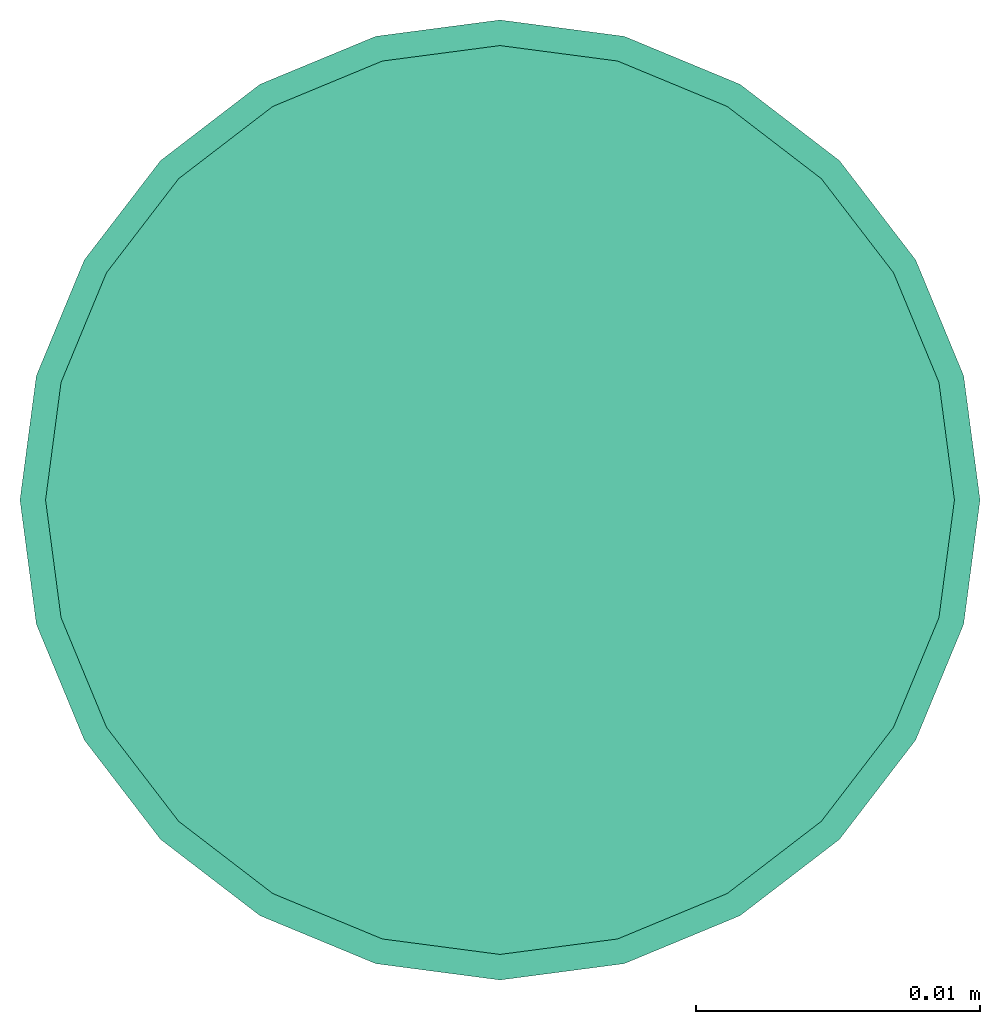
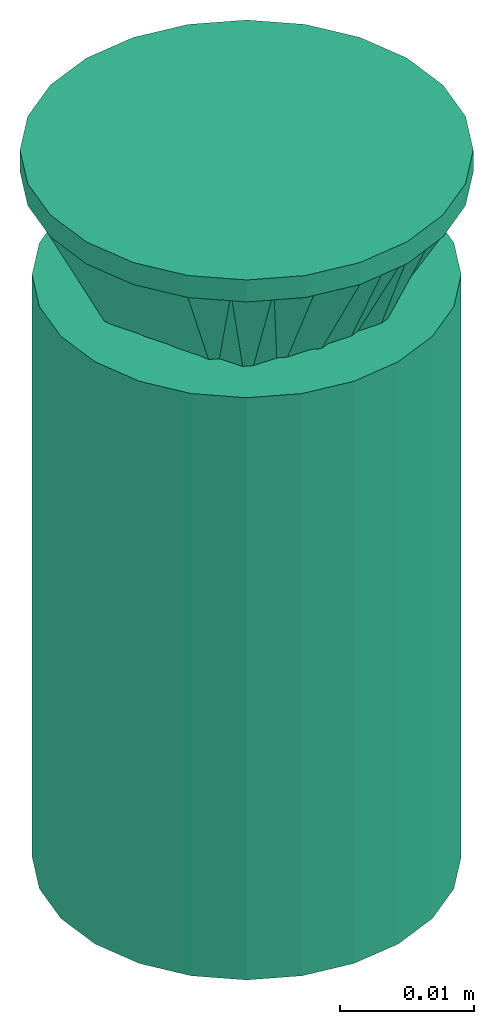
# One storey: 1 flow fitting, 1 flow terminal.
"""IFC2X3 building model written with IfcOpenShell, lengths in millimetres."""

from ifc_helpers import new_model, entity, si_unit, converted_unit, derived_unit, direction, frame, origin_with_axes, place, context, subcontext, project, spatial, open_shell, surface_model, source, transform, mapped, type_object, element, save


model = new_model("IFC2X3")

# Units and contexts
model_context = context("Model", 3, precision=0.01, world=frame((0.0, 4.29681676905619e-09, 0.0)), true_north=direction((4.01073788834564e-13, 1.0)))
plan_context = context("Plan", 3, precision=0.01, world=frame((0.0, 4.29681676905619e-09, 0.0)), true_north=direction((4.01073788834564e-13, 1.0)))
body_context = subcontext(model_context, "Body", "Model", "MODEL_VIEW")
ifc_project = project(units=[converted_unit("PLANEANGLEUNIT", "DEGREE", entity("IfcPositiveLengthMeasure", 0.0174532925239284), si_unit("PLANEANGLEUNIT", "RADIAN"), dimensions=[0, 0, 0, 0, 0, 0, 0]), si_unit("AREAUNIT", "SQUARE_METRE"), si_unit("LENGTHUNIT", "METRE", prefix="MILLI"), si_unit("MASSUNIT", "GRAM", prefix="KILO"), si_unit("POWERUNIT", "WATT"), si_unit("PRESSUREUNIT", "PASCAL", prefix="KILO"), si_unit("FORCEUNIT", "NEWTON", prefix="KILO"), si_unit("ELECTRICVOLTAGEUNIT", "VOLT"), si_unit("ELECTRICCURRENTUNIT", "AMPERE"), si_unit("THERMODYNAMICTEMPERATUREUNIT", "DEGREE_CELSIUS"), si_unit("TIMEUNIT", "SECOND"), si_unit("VOLUMEUNIT", "CUBIC_METRE"), derived_unit("LINEARVELOCITYUNIT", [(si_unit("LENGTHUNIT", "METRE"), 1), (si_unit("TIMEUNIT", "SECOND"), -1)]), derived_unit("VOLUMETRICFLOWRATEUNIT", [(si_unit("VOLUMEUNIT", "CUBIC_METRE"), 1), (si_unit("TIMEUNIT", "SECOND"), -1)]), derived_unit("THERMALTRANSMITTANCEUNIT", [(si_unit("POWERUNIT", "WATT"), 1), (si_unit("THERMODYNAMICTEMPERATUREUNIT", "KELVIN"), -1), (si_unit("AREAUNIT", "SQUARE_METRE"), -1)]), derived_unit("SOUNDPRESSUREUNIT", [(si_unit("PRESSUREUNIT", "PASCAL"), 1)])], contexts=[model_context, plan_context])

# Site, building, storey
site_placement = place(None, frame((0.0, -4.29681676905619e-09, 0.0), z_axis=(0.0, 0.0, 1.0), x_axis=(1.0, 0.0, 0.0)))
site = spatial("IfcSite", under=ifc_project, at=site_placement, CompositionType="ELEMENT")
building_placement = place(site_placement, frame((0.0, 4.29681676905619e-09, 0.0), z_axis=(0.0, 0.0, 1.0), x_axis=(1.0, 0.0, 0.0)))
building = spatial("IfcBuilding", under=site, at=building_placement, Name="mc-building", CompositionType="ELEMENT")
storey_placement = place(building_placement, frame((0.0, 0.0, 210200.0), z_axis=(0.0, 0.0, 1.0), x_axis=(1.0, 0.0, 0.0)))
storey = spatial("IfcBuildingStorey", under=building, at=storey_placement, Name="Nivå F - 0,7 m", CompositionType="ELEMENT", Elevation=210200.0)

# Flow fitting
pipe_fitting_type = type_object("IfcPipeFittingType", Name="magi_pipe_fe_reducer_centric_short_NOR", PredefinedType="TRANSITION")
shared_shape_1 = source(origin_with_axes(), body_context, "Body", "SurfaceModel", [
    surface_model("IfcShellBasedSurfaceModel", [(-2.0, -7.56604, -7.56604), (-2.0, -10.33541, -2.76936), (-2.0, -5.35, -9.26647), (-2.0, 5.35, -9.26647), (-2.0, 10.33541, -2.76936), (-2.0, 7.56604, -7.56604), (12.4, 11.9501, 11.9501), (12.4, 0.0, 16.9), (12.4, 11.9501, -11.9501), (12.4, 16.9, 0.0), (0.0, -10.7, 0.0), (0.0, -5.35, 9.26647), (0.0, -5.35, -9.26647), (0.0, 10.7, 0.0), (12.4, 15.66253, -2.98753), (12.4, 8.96258, -13.18758), (0.0, 6.6875, -6.94985), (12.4, -15.66253, -2.98753), (12.4, -16.9, 0.0), (12.4, 5.97505, -14.42505), (0.0, 5.35, -9.26647), (12.4, 14.42505, -5.97505), (0.0, 8.025, -4.63324), (0.0, 9.3625, -2.31662), (0.0, -9.3625, -2.31662), (0.0, -8.025, -4.63324), (12.4, -14.42505, -5.97505), (12.4, 13.18758, -8.96258), (12.4, -13.18758, -8.96258), (12.4, -11.9501, -11.9501), (0.0, -6.6875, -6.94985), (12.4, -8.96258, -13.18758), (12.4, -5.97505, -14.42505), (12.4, -15.66253, 2.98753), (12.4, -8.96258, 13.18758), (0.0, -6.6875, 6.94985), (12.4, -11.9501, 11.9501), (12.4, 15.66253, 2.98753), (12.4, -5.97505, 14.42505), (12.4, -14.42505, 5.97505), (0.0, -8.025, 4.63324), (0.0, -9.3625, 2.31662), (0.0, 9.3625, 2.31662), (0.0, 8.025, 4.63324), (12.4, 14.42505, 5.97505), (12.4, -13.18758, 8.96258), (12.4, 13.18758, 8.96258), (0.0, 6.6875, 6.94985), (12.4, 8.96258, 13.18758), (0.0, 5.35, 9.26647), (12.4, 5.97505, 14.42505), (14.4, 4.37404, -16.32415), (14.4, 8.45, -14.63583), (14.4, 11.9501, -11.9501), (14.4, -8.45, -14.63583), (14.4, 16.32415, -4.37404), (14.4, 16.32415, 4.37404), (14.4, 14.63583, -8.45), (14.4, 0.0, -16.9), (14.4, -4.37404, -16.32415), (14.4, -11.9501, -11.9501), (14.4, -16.32415, -4.37404), (14.4, -14.63583, -8.45), (14.4, -16.32415, 4.37404), (14.4, 16.9, 0.0), (14.4, 14.63583, 8.45), (14.4, 11.9501, 11.9501), (14.4, 4.37404, 16.32415), (14.4, 8.45, 14.63583), (14.4, 0.0, 16.9), (14.4, -14.63583, 8.45), (14.4, -16.9, 0.0), (14.4, -8.45, 14.63583), (14.4, -11.9501, 11.9501), (14.4, -4.37404, 16.32415), (12.4, 4.37404, 16.32415), (12.4, -14.63583, 8.45), (12.4, 16.32415, 4.37404), (12.4, 8.45, 14.63583), (12.4, 14.63583, 8.45), (12.4, -8.45, 14.63583), (12.4, -4.37404, 16.32415), (12.4, -16.32415, 4.37404), (12.4, -16.32415, -4.37404), (12.4, -8.45, -14.63583), (12.4, 16.32415, -4.37404), (12.4, 14.63583, -8.45), (12.4, 8.45, -14.63583), (12.4, 4.37404, -16.32415), (12.4, 0.0, -16.9), (12.4, -14.63583, -8.45), (12.4, -4.37404, -16.32415), (-2.0, 2.76936, 10.33541), (-2.0, 0.0, 10.7), (-2.0, 5.35, 9.26647), (-2.0, 7.56604, 7.56604), (-2.0, 9.26647, 5.35), (-2.0, 10.33541, 2.76936), (-2.0, -10.33541, 2.76936), (-2.0, -2.76936, 10.33541), (-2.0, -7.56604, 7.56604), (-2.0, -5.35, 9.26647), (-2.0, -9.26647, 5.35), (-2.0, -10.7, 0.0), (-2.0, 9.26647, -5.35), (-2.0, 2.76936, -10.33541), (-2.0, -9.26647, -5.35), (-2.0, 0.0, -10.7), (-2.0, -2.76936, -10.33541), (-2.0, 10.7, 0.0), (0.0, 0.0, -10.7), (0.0, 2.76936, -10.33541), (0.0, 10.33541, -2.76936), (0.0, 7.56604, -7.56604), (0.0, -10.33541, -2.76936), (0.0, 9.26647, -5.35), (0.0, 0.0, 10.7), (0.0, -2.76936, -10.33541), (0.0, -7.56604, -7.56604), (0.0, -9.26647, -5.35), (0.0, 10.33541, 2.76936), (0.0, 9.26647, 5.35), (0.0, 7.56604, 7.56604), (0.0, 2.76936, 10.33541), (0.0, -7.56604, 7.56604), (0.0, -10.33541, 2.76936), (0.0, -9.26647, 5.35), (0.0, -2.76936, 10.33541), (0.0, 2.675, -9.26647), (0.0, -2.675, -9.26647), (12.4, 2.98753, -15.66253), (0.0, 0.0, -9.26647), (12.4, -2.98753, -15.66253), (0.0, -2.675, 9.26647), (0.0, 2.675, 9.26647), (12.4, -2.98753, 15.66253), (0.0, 0.0, 9.26647), (12.4, 2.98753, 15.66253)], [open_shell([[[0, 1, 2]], [[3, 4, 5]], [[6, 7, 8]], [[8, 9, 6]], [[10, 11, 12]], [[13, 9, 14]], [[15, 16, 8]], [[17, 18, 10]], [[15, 19, 20]], [[21, 22, 23]], [[24, 25, 26]], [[22, 21, 27]], [[28, 26, 25]], [[29, 30, 31]], [[12, 32, 31]], [[10, 18, 33]], [[34, 35, 36]], [[37, 9, 13]], [[34, 38, 11]], [[39, 40, 41]], [[42, 43, 44]], [[40, 39, 45]], [[46, 44, 43]], [[6, 47, 48]], [[49, 50, 48]], [[51, 52, 53]], [[54, 51, 53]], [[53, 55, 56]], [[55, 53, 57]], [[53, 56, 54]], [[58, 54, 59]], [[58, 51, 54]], [[60, 61, 62]], [[61, 60, 54]], [[54, 63, 61]], [[56, 55, 64]], [[56, 65, 66]], [[56, 66, 67]], [[67, 63, 54]], [[67, 66, 68]], [[63, 67, 69]], [[69, 70, 63]], [[71, 61, 63]], [[70, 72, 73]], [[70, 69, 72]], [[72, 69, 74]], [[54, 56, 67]], [[75, 76, 7]], [[77, 75, 78]], [[6, 79, 77]], [[6, 77, 78]], [[76, 75, 77]], [[80, 76, 36]], [[80, 81, 7]], [[7, 76, 80]], [[82, 76, 77]], [[82, 83, 18]], [[82, 77, 84]], [[77, 85, 8]], [[8, 85, 86]], [[8, 87, 88]], [[84, 77, 8]], [[88, 89, 8]], [[83, 29, 90]], [[29, 83, 84]], [[84, 89, 91]], [[83, 82, 84]], [[8, 89, 84]], [[85, 77, 9]], [[83, 61, 18]], [[90, 62, 83]], [[54, 29, 84]], [[90, 29, 60]], [[59, 84, 91]], [[83, 62, 61]], [[61, 71, 18]], [[59, 54, 84]], [[60, 29, 54]], [[60, 62, 90]], [[58, 59, 91]], [[91, 89, 58]], [[88, 51, 89]], [[87, 52, 88]], [[57, 8, 86]], [[87, 8, 53]], [[55, 86, 85]], [[87, 53, 52]], [[52, 51, 88]], [[64, 55, 85]], [[57, 86, 55]], [[57, 53, 8]], [[9, 64, 85]], [[89, 51, 58]], [[77, 56, 9]], [[79, 65, 77]], [[68, 6, 78]], [[79, 6, 66]], [[67, 78, 75]], [[77, 65, 56]], [[56, 64, 9]], [[67, 68, 78]], [[66, 6, 68]], [[66, 65, 79]], [[69, 67, 75]], [[75, 7, 69]], [[81, 74, 7]], [[80, 72, 81]], [[70, 36, 76]], [[80, 36, 73]], [[63, 76, 82]], [[80, 73, 72]], [[72, 74, 81]], [[71, 63, 82]], [[70, 76, 63]], [[70, 73, 36]], [[18, 71, 82]], [[7, 74, 69]], [[92, 1, 93]], [[94, 1, 92]], [[95, 96, 97]], [[95, 97, 94]], [[98, 93, 1]], [[99, 100, 101]], [[99, 93, 100]], [[100, 98, 102]], [[93, 98, 100]], [[98, 1, 103]], [[94, 97, 1]], [[1, 97, 4]], [[5, 4, 104]], [[4, 3, 1]], [[105, 1, 3]], [[1, 0, 106]], [[2, 107, 108]], [[2, 1, 105]], [[105, 107, 2]], [[4, 97, 109]], [[20, 110, 111]], [[112, 20, 113]], [[114, 20, 112]], [[112, 113, 115]], [[116, 114, 112]], [[110, 12, 117]], [[110, 20, 12]], [[118, 114, 119]], [[114, 118, 12]], [[20, 114, 12]], [[112, 13, 120]], [[120, 121, 122]], [[120, 122, 123]], [[116, 112, 123]], [[123, 122, 49]], [[116, 124, 114]], [[125, 124, 126]], [[10, 114, 125]], [[124, 127, 11]], [[125, 114, 124]], [[127, 124, 116]], [[123, 112, 120]], [[1, 114, 103]], [[106, 119, 1]], [[12, 0, 2]], [[106, 0, 118]], [[117, 2, 108]], [[1, 119, 114]], [[114, 10, 103]], [[117, 12, 2]], [[118, 0, 12]], [[118, 119, 106]], [[110, 117, 108]], [[108, 107, 110]], [[105, 111, 107]], [[3, 20, 105]], [[115, 5, 104]], [[3, 5, 113]], [[112, 104, 4]], [[3, 113, 20]], [[20, 111, 105]], [[13, 112, 4]], [[115, 104, 112]], [[115, 113, 5]], [[109, 13, 4]], [[107, 111, 110]], [[97, 120, 109]], [[96, 121, 97]], [[49, 95, 94]], [[96, 95, 122]], [[123, 94, 92]], [[97, 121, 120]], [[120, 13, 109]], [[123, 49, 94]], [[122, 95, 49]], [[122, 121, 96]], [[116, 123, 92]], [[92, 93, 116]], [[99, 127, 93]], [[101, 11, 99]], [[126, 100, 102]], [[101, 100, 124]], [[125, 102, 98]], [[101, 124, 11]], [[11, 127, 99]], [[10, 125, 98]], [[126, 102, 125]], [[126, 124, 100]], [[103, 10, 98]], [[93, 127, 116]], [[18, 7, 36]], [[18, 29, 8]], [[89, 8, 29]], [[18, 8, 7]], [[13, 11, 49]], [[13, 20, 12]], [[13, 12, 11]], [[24, 26, 17]], [[10, 24, 17]], [[16, 15, 20]], [[30, 12, 31]], [[23, 14, 21]], [[19, 128, 20]], [[27, 8, 16]], [[32, 12, 129]], [[30, 28, 25]], [[130, 131, 128]], [[129, 132, 32]], [[16, 22, 27]], [[13, 14, 23]], [[128, 19, 130]], [[130, 89, 131]], [[131, 132, 129]], [[89, 132, 131]], [[28, 30, 29]], [[42, 44, 37]], [[13, 42, 37]], [[35, 34, 11]], [[47, 49, 48]], [[41, 33, 39]], [[38, 133, 11]], [[45, 36, 35]], [[50, 49, 134]], [[47, 46, 43]], [[135, 136, 133]], [[134, 137, 50]], [[35, 40, 45]], [[10, 33, 41]], [[133, 38, 135]], [[135, 7, 136]], [[136, 137, 134]], [[7, 137, 136]], [[46, 47, 6]]])]),
])
flow_fitting_placement = place(storey_placement, frame((726580.0, 438982.74228, 2796.95199999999), z_axis=(0.0, 1.0, 0.0), x_axis=(0.0, 0.0, 1.0)))
element("IfcFlowFitting", 1, at=flow_fitting_placement, inside=storey, type_object=pipe_fitting_type, Name="magi_pipe_fe_reducer_centric_short_NOR", context=body_context, shape_type="MappedRepresentation", body=[
    mapped(shared_shape_1, transform((0.0, 0.0, 0.0), scale=1.0)),
])

# Flow terminal
fire_suppression_terminal_type = type_object("IfcFireSuppressionTerminalType", Name="SP-15-K80-68DGR-STD-HIMLING", PredefinedType="NOTDEFINED")
shared_shape_2 = source(origin_with_axes(), body_context, "Body", "SurfaceModel", [
    surface_model("IfcShellBasedSurfaceModel", [(4.1411, -15.45481, 53.0), (8.0, -13.85641, 53.0), (11.31371, -11.31371, 53.0), (-8.0, -13.85641, 53.0), (15.45481, -4.1411, 53.0), (16.0, 0.0, 53.0), (13.85641, -8.0, 53.0), (0.0, -16.0, 53.0), (-4.1411, -15.45481, 53.0), (-13.85641, -8.0, 53.0), (-11.31371, -11.31371, 53.0), (-15.45481, -4.1411, 53.0), (15.45481, 4.1411, 53.0), (13.85641, 8.0, 53.0), (11.31371, 11.31371, 53.0), (-4.1411, 15.45481, 53.0), (8.0, 13.85641, 53.0), (4.1411, 15.45481, 53.0), (0.0, 16.0, 53.0), (-13.85641, 8.0, 53.0), (-15.45481, 4.1411, 53.0), (-16.0, 0.0, 53.0), (-11.31371, 11.31371, 53.0), (-8.0, 13.85641, 53.0), (0.0, 16.0, 0.0), (4.1411, 15.45481, 0.0), (8.0, 13.85641, 0.0), (-4.1411, 15.45481, 0.0), (11.31371, 11.31371, 0.0), (13.85641, 8.0, 0.0), (15.45481, 4.1411, 0.0), (-15.45481, -4.1411, 0.0), (-11.31371, 11.31371, 0.0), (-8.0, 13.85641, 0.0), (-13.85641, 8.0, 0.0), (-15.45481, 4.1411, 0.0), (-16.0, 0.0, 0.0), (4.1411, -15.45481, 0.0), (16.0, 0.0, 0.0), (15.45481, -4.1411, 0.0), (13.85641, -8.0, 0.0), (11.31371, -11.31371, 0.0), (8.0, -13.85641, 0.0), (-8.0, -13.85641, 0.0), (-13.85641, -8.0, 0.0), (-11.31371, -11.31371, 0.0), (0.0, -16.0, 0.0), (-4.1411, -15.45481, 0.0)], [open_shell([[[0, 1, 2]], [[3, 0, 2]], [[4, 5, 2]], [[4, 2, 6]], [[3, 2, 5]], [[7, 3, 8]], [[7, 0, 3]], [[3, 9, 10]], [[9, 3, 11]], [[5, 11, 3]], [[5, 12, 11]], [[12, 13, 14]], [[15, 12, 14]], [[16, 17, 18]], [[14, 16, 15]], [[18, 15, 16]], [[11, 19, 20]], [[21, 11, 20]], [[22, 15, 23]], [[15, 22, 19]], [[19, 11, 15]], [[11, 12, 15]], [[24, 25, 26]], [[27, 24, 26]], [[28, 29, 30]], [[27, 26, 28]], [[27, 28, 31]], [[27, 32, 33]], [[32, 27, 34]], [[34, 31, 35]], [[31, 34, 27]], [[35, 31, 36]], [[28, 30, 31]], [[37, 38, 39]], [[37, 39, 40]], [[41, 42, 37]], [[41, 37, 40]], [[38, 37, 43]], [[44, 43, 45]], [[43, 44, 31]], [[43, 46, 47]], [[43, 31, 38]], [[37, 46, 43]], [[38, 31, 30]], [[11, 31, 44]], [[45, 9, 44]], [[3, 43, 47]], [[45, 43, 10]], [[8, 47, 46]], [[31, 21, 36]], [[31, 11, 21]], [[44, 9, 11]], [[45, 10, 9]], [[3, 10, 43]], [[47, 8, 3]], [[46, 7, 8]], [[0, 37, 42]], [[41, 1, 42]], [[6, 40, 39]], [[41, 40, 2]], [[4, 39, 38]], [[37, 0, 7]], [[42, 1, 0]], [[41, 2, 1]], [[40, 6, 2]], [[4, 6, 39]], [[38, 5, 4]], [[37, 7, 46]], [[12, 38, 30]], [[13, 30, 29]], [[16, 26, 25]], [[17, 25, 24]], [[30, 13, 12]], [[12, 5, 38]], [[28, 14, 13]], [[28, 26, 14]], [[14, 26, 16]], [[25, 17, 16]], [[28, 13, 29]], [[24, 18, 17]], [[15, 27, 33]], [[32, 23, 33]], [[19, 34, 35]], [[32, 34, 22]], [[20, 35, 36]], [[27, 15, 18]], [[33, 23, 15]], [[32, 22, 23]], [[34, 19, 22]], [[20, 19, 35]], [[36, 21, 20]], [[27, 18, 24]]])]),
])
flow_terminal_placement = place(storey_placement, frame((726580.0, 438982.74228, 2800.0), z_axis=(0.0, 0.0, -1.0), x_axis=(-1.0, 0.0, 0.0)))
element("IfcFlowTerminal", 2, at=flow_terminal_placement, inside=storey, type_object=fire_suppression_terminal_type, Name="SP-15-K80-68DGR-STD-HIMLING", context=body_context, shape_type="MappedRepresentation", body=[
    mapped(shared_shape_2, transform((0.0, 0.0, 0.0), scale=1.0)),
])

save(model, "model.ifc")
